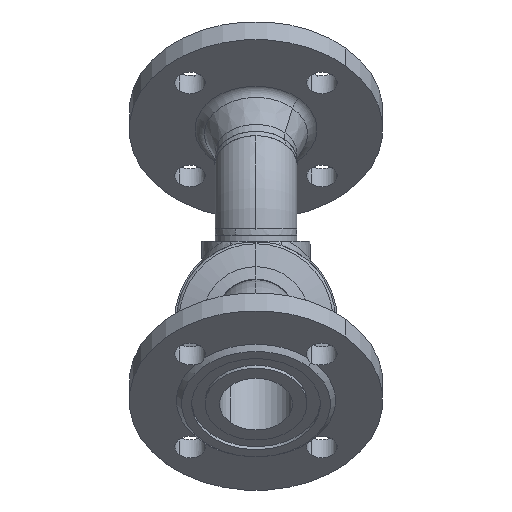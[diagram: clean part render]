
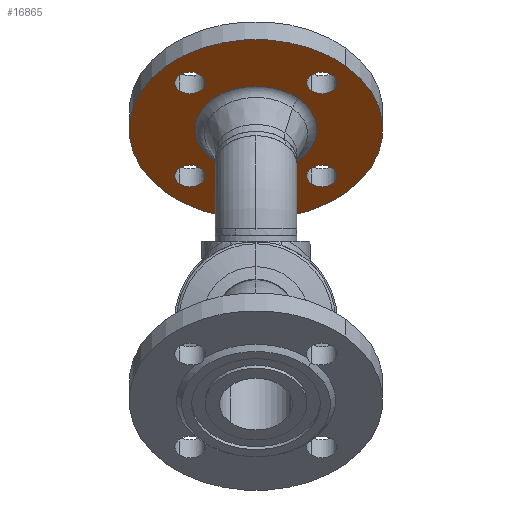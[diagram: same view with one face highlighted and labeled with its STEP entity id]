
A CAD part, front view. The second image highlights one B-rep face of the part: STEP entity #16865.
In plain terms, the highlighted planar face has unit normal (0, -0.707, -0.707) as drawn and (0, 1, 0) by its records, which use the part's own axes.
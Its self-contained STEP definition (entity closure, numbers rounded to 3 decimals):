
#49316 = EDGE_LOOP ( 'NONE', ( #10392, #22646 ) ) ;
#16865 = ADVANCED_FACE ( 'NONE', ( #10732, #10733, #10734, #10735, #10736, #10737 ), #10738, .F. ) ;
#709 = VERTEX_POINT ( 'NONE', #41091 ) ;
#33730 = CARTESIAN_POINT ( 'NONE',  ( 75., 18., 0. ) ) ;
#1029 = CIRCLE ( 'NONE', #1030, 9. ) ;
#1030 = AXIS2_PLACEMENT_3D ( 'NONE', #1031, #1032, #1033 ) ;
#1031 = CARTESIAN_POINT ( 'NONE',  ( 0., 18., -55. ) ) ;
#1032 = DIRECTION ( 'NONE',  ( 0., 1., 0. ) ) ;
#1033 = DIRECTION ( 'NONE',  ( 0., 0., 1. ) ) ;
#50178 = ORIENTED_EDGE ( 'NONE', *, *, #6817, .F. ) ;
#1244 = CIRCLE ( 'NONE', #1245, 36.091 ) ;
#1245 = AXIS2_PLACEMENT_3D ( 'NONE', #1246, #1247, #1248 ) ;
#1246 = CARTESIAN_POINT ( 'NONE',  ( 0., 18., 0. ) ) ;
#1247 = DIRECTION ( 'NONE',  ( 0., 1., 0. ) ) ;
#1248 = DIRECTION ( 'NONE',  ( -1., 0., 0. ) ) ;
#1317 = EDGE_CURVE ( 'NONE', #3742, #709, #41944, .T. ) ;
#1351 = CARTESIAN_POINT ( 'NONE',  ( -9., 18., 55. ) ) ;
#34310 = EDGE_CURVE ( 'NONE', #32131, #2986, #1244, .T. ) ;
#34325 = CARTESIAN_POINT ( 'NONE',  ( -46., 18., 0. ) ) ;
#1622 = VERTEX_POINT ( 'NONE', #42868 ) ;
#18014 = ORIENTED_EDGE ( 'NONE', *, *, #37941, .T. ) ;
#50913 = EDGE_CURVE ( 'NONE', #8779, #1622, #47041, .T. ) ;
#51374 = ORIENTED_EDGE ( 'NONE', *, *, #50913, .F. ) ;
#35669 = EDGE_CURVE ( 'NONE', #37544, #24161, #28208, .T. ) ;
#2986 = VERTEX_POINT ( 'NONE', #44673 ) ;
#52163 = CIRCLE ( 'NONE', #52164, 9. ) ;
#52164 = AXIS2_PLACEMENT_3D ( 'NONE', #52165, #52166, #52167 ) ;
#52165 = CARTESIAN_POINT ( 'NONE',  ( 55., 18., 0. ) ) ;
#52166 = DIRECTION ( 'NONE',  ( 0., 1., 0. ) ) ;
#52167 = DIRECTION ( 'NONE',  ( -1., 0., 0. ) ) ;
#19419 = EDGE_LOOP ( 'NONE', ( #18014, #30039 ) ) ;
#35923 = EDGE_LOOP ( 'NONE', ( #6917, #4508 ) ) ;
#52353 = CARTESIAN_POINT ( 'NONE',  ( -9., 18., -55. ) ) ;
#52417 = CARTESIAN_POINT ( 'NONE',  ( -36.091, 18., 0. ) ) ;
#52669 = CIRCLE ( 'NONE', #52670, 9. ) ;
#52670 = AXIS2_PLACEMENT_3D ( 'NONE', #52705, #52706, #52707 ) ;
#52705 = CARTESIAN_POINT ( 'NONE',  ( 0., 18., -55. ) ) ;
#52706 = DIRECTION ( 'NONE',  ( 0., 1., 0. ) ) ;
#52707 = DIRECTION ( 'NONE',  ( 0., 0., 1. ) ) ;
#52787 = EDGE_LOOP ( 'NONE', ( #51374, #36585 ) ) ;
#20073 = ORIENTED_EDGE ( 'NONE', *, *, #32738, .F. ) ;
#3742 = VERTEX_POINT ( 'NONE', #34325 ) ;
#36585 = ORIENTED_EDGE ( 'NONE', *, *, #10295, .F. ) ;
#3846 = EDGE_LOOP ( 'NONE', ( #21383, #20073 ) ) ;
#4066 = CIRCLE ( 'NONE', #4102, 75. ) ;
#4102 = AXIS2_PLACEMENT_3D ( 'NONE', #4103, #4104, #4105 ) ;
#4103 = CARTESIAN_POINT ( 'NONE',  ( 0., 18., 0. ) ) ;
#4104 = DIRECTION ( 'NONE',  ( 0., 1., 0. ) ) ;
#4105 = DIRECTION ( 'NONE',  ( -1., 0., 0. ) ) ;
#37243 = VERTEX_POINT ( 'NONE', #29760 ) ;
#53625 = CIRCLE ( 'NONE', #53626, 36.091 ) ;
#53626 = AXIS2_PLACEMENT_3D ( 'NONE', #53627, #53628, #53629 ) ;
#53627 = CARTESIAN_POINT ( 'NONE',  ( 0., 18., 0. ) ) ;
#53628 = DIRECTION ( 'NONE',  ( 0., 1., 0. ) ) ;
#53629 = DIRECTION ( 'NONE',  ( -1., 0., 0. ) ) ;
#4508 = ORIENTED_EDGE ( 'NONE', *, *, #35669, .F. ) ;
#37544 = VERTEX_POINT ( 'NONE', #30121 ) ;
#21383 = ORIENTED_EDGE ( 'NONE', *, *, #34310, .F. ) ;
#37941 = EDGE_CURVE ( 'NONE', #48980, #39808, #31563, .T. ) ;
#5913 = EDGE_CURVE ( 'NONE', #24161, #37544, #52163, .T. ) ;
#22646 = ORIENTED_EDGE ( 'NONE', *, *, #1317, .F. ) ;
#6314 = VERTEX_POINT ( 'NONE', #52353 ) ;
#6817 = EDGE_CURVE ( 'NONE', #37243, #6314, #52669, .T. ) ;
#6917 = ORIENTED_EDGE ( 'NONE', *, *, #5913, .F. ) ;
#39808 = VERTEX_POINT ( 'NONE', #33730 ) ;
#24161 = VERTEX_POINT ( 'NONE', #48706 ) ;
#41091 = CARTESIAN_POINT ( 'NONE',  ( -64., 18., 0. ) ) ;
#8481 = EDGE_CURVE ( 'NONE', #6314, #37243, #1029, .T. ) ;
#8779 = VERTEX_POINT ( 'NONE', #1351 ) ;
#41944 = CIRCLE ( 'NONE', #41945, 9. ) ;
#41945 = AXIS2_PLACEMENT_3D ( 'NONE', #41946, #41947, #41948 ) ;
#41946 = CARTESIAN_POINT ( 'NONE',  ( -55., 18., 0. ) ) ;
#41947 = DIRECTION ( 'NONE',  ( 0., 1., 0. ) ) ;
#41948 = DIRECTION ( 'NONE',  ( 1., 0., 0. ) ) ;
#9941 = EDGE_CURVE ( 'NONE', #709, #3742, #28252, .T. ) ;
#42868 = CARTESIAN_POINT ( 'NONE',  ( 9., 18., 55. ) ) ;
#10295 = EDGE_CURVE ( 'NONE', #1622, #8779, #28812, .T. ) ;
#10392 = ORIENTED_EDGE ( 'NONE', *, *, #9941, .F. ) ;
#10492 = ORIENTED_EDGE ( 'NONE', *, *, #8481, .F. ) ;
#10732 = FACE_BOUND ( 'NONE', #11447, .T. ) ;
#10733 = FACE_BOUND ( 'NONE', #49316, .T. ) ;
#10734 = FACE_BOUND ( 'NONE', #52787, .T. ) ;
#10735 = FACE_BOUND ( 'NONE', #35923, .T. ) ;
#10736 = FACE_BOUND ( 'NONE', #3846, .T. ) ;
#10737 = FACE_OUTER_BOUND ( 'NONE', #19419, .T. ) ;
#10738 = PLANE ( 'NONE',  #10739 ) ;
#10739 = AXIS2_PLACEMENT_3D ( 'NONE', #10740, #10741, #10742 ) ;
#10740 = CARTESIAN_POINT ( 'NONE',  ( 75., 18., 0. ) ) ;
#10741 = DIRECTION ( 'NONE',  ( 0., -1., 0. ) ) ;
#10742 = DIRECTION ( 'NONE',  ( 1., 0., 0. ) ) ;
#11447 = EDGE_LOOP ( 'NONE', ( #10492, #50178 ) ) ;
#28208 = CIRCLE ( 'NONE', #28209, 9. ) ;
#28209 = AXIS2_PLACEMENT_3D ( 'NONE', #28210, #28211, #28212 ) ;
#28210 = CARTESIAN_POINT ( 'NONE',  ( 55., 18., 0. ) ) ;
#28211 = DIRECTION ( 'NONE',  ( 0., 1., 0. ) ) ;
#28212 = DIRECTION ( 'NONE',  ( -1., 0., 0. ) ) ;
#28252 = CIRCLE ( 'NONE', #28253, 9. ) ;
#28253 = AXIS2_PLACEMENT_3D ( 'NONE', #28254, #28255, #28256 ) ;
#28254 = CARTESIAN_POINT ( 'NONE',  ( -55., 18., 0. ) ) ;
#28255 = DIRECTION ( 'NONE',  ( 0., 1., 0. ) ) ;
#28256 = DIRECTION ( 'NONE',  ( 1., 0., 0. ) ) ;
#44673 = CARTESIAN_POINT ( 'NONE',  ( 36.091, 18., 0. ) ) ;
#28812 = CIRCLE ( 'NONE', #28813, 9. ) ;
#28813 = AXIS2_PLACEMENT_3D ( 'NONE', #28814, #28815, #28816 ) ;
#28814 = CARTESIAN_POINT ( 'NONE',  ( 0., 18., 55. ) ) ;
#28815 = DIRECTION ( 'NONE',  ( 0., 1., 0. ) ) ;
#28816 = DIRECTION ( 'NONE',  ( 0., 0., -1. ) ) ;
#29038 = EDGE_CURVE ( 'NONE', #39808, #48980, #4066, .T. ) ;
#29437 = CARTESIAN_POINT ( 'NONE',  ( -75., 18., 0. ) ) ;
#29760 = CARTESIAN_POINT ( 'NONE',  ( 9., 18., -55. ) ) ;
#30039 = ORIENTED_EDGE ( 'NONE', *, *, #29038, .T. ) ;
#30121 = CARTESIAN_POINT ( 'NONE',  ( 64., 18., 0. ) ) ;
#47041 = CIRCLE ( 'NONE', #47042, 9. ) ;
#47042 = AXIS2_PLACEMENT_3D ( 'NONE', #47043, #47044, #47045 ) ;
#47043 = CARTESIAN_POINT ( 'NONE',  ( 0., 18., 55. ) ) ;
#47044 = DIRECTION ( 'NONE',  ( 0., 1., 0. ) ) ;
#47045 = DIRECTION ( 'NONE',  ( 0., 0., -1. ) ) ;
#31563 = CIRCLE ( 'NONE', #31564, 75. ) ;
#31564 = AXIS2_PLACEMENT_3D ( 'NONE', #31565, #31566, #31567 ) ;
#31565 = CARTESIAN_POINT ( 'NONE',  ( 0., 18., 0. ) ) ;
#31566 = DIRECTION ( 'NONE',  ( 0., 1., 0. ) ) ;
#31567 = DIRECTION ( 'NONE',  ( -1., 0., 0. ) ) ;
#32131 = VERTEX_POINT ( 'NONE', #52417 ) ;
#48706 = CARTESIAN_POINT ( 'NONE',  ( 46., 18., 0. ) ) ;
#48980 = VERTEX_POINT ( 'NONE', #29437 ) ;
#32738 = EDGE_CURVE ( 'NONE', #2986, #32131, #53625, .T. ) ;
